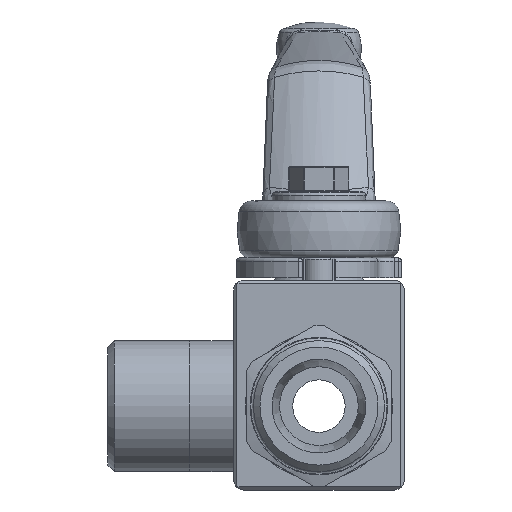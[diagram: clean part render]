
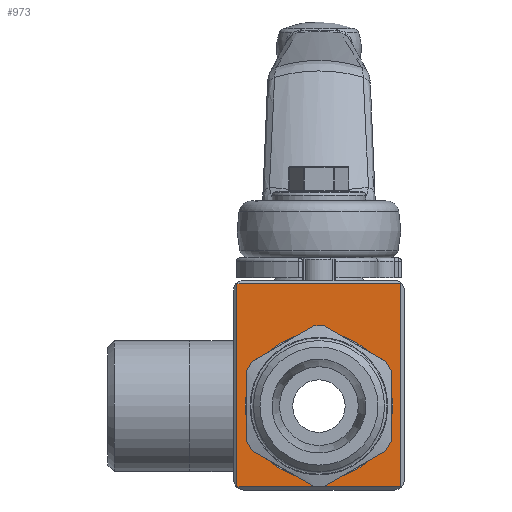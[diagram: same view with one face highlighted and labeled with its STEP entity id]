
A CAD part, front view. The second image highlights one B-rep face of the part: STEP entity #973.
In plain terms, the highlighted planar face has unit normal (0, -1, 0).
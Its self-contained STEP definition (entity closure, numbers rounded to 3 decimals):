
#973 = ADVANCED_FACE( '', ( #2069, #2070 ), #2071, .F. );
#2069 = FACE_BOUND( '', #3660, .T. );
#2070 = FACE_OUTER_BOUND( '', #3661, .T. );
#2071 = PLANE( '', #3662 );
#3660 = EDGE_LOOP( '', ( #6760 ) );
#3661 = EDGE_LOOP( '', ( #6761, #6762, #6763, #6764 ) );
#3662 = AXIS2_PLACEMENT_3D( '', #6765, #6766, #6767 );
#6760 = ORIENTED_EDGE( '', *, *, #8554, .T. );
#6761 = ORIENTED_EDGE( '', *, *, #8995, .T. );
#6762 = ORIENTED_EDGE( '', *, *, #9135, .T. );
#6763 = ORIENTED_EDGE( '', *, *, #9136, .T. );
#6764 = ORIENTED_EDGE( '', *, *, #9137, .T. );
#6765 = CARTESIAN_POINT( '', ( -13., -18.1, 19.2 ) );
#6766 = DIRECTION( '', ( 0., 1., 0. ) );
#6767 = DIRECTION( '', ( 0., 0., 1. ) );
#8554 = EDGE_CURVE( '', #9994, #9994, #9995, .T. );
#8995 = EDGE_CURVE( '', #10672, #10670, #10673, .T. );
#9135 = EDGE_CURVE( '', #10670, #10871, #10872, .T. );
#9136 = EDGE_CURVE( '', #10871, #10873, #10874, .T. );
#9137 = EDGE_CURVE( '', #10873, #10672, #10875, .T. );
#9994 = VERTEX_POINT( '', #12048 );
#9995 = CIRCLE( '', #12049, 11.25 );
#10670 = VERTEX_POINT( '', #13315 );
#10672 = VERTEX_POINT( '', #13318 );
#10673 = LINE( '', #13319, #13320 );
#10871 = VERTEX_POINT( '', #13743 );
#10872 = LINE( '', #13744, #13745 );
#10873 = VERTEX_POINT( '', #13746 );
#10874 = LINE( '', #13747, #13748 );
#10875 = LINE( '', #13749, #13750 );
#12048 = CARTESIAN_POINT( '', ( 0., -18.1, -11.25 ) );
#12049 = AXIS2_PLACEMENT_3D( '', #15148, #15149, #15150 );
#13315 = CARTESIAN_POINT( '', ( -12.5, -18.1, -12.3 ) );
#13318 = CARTESIAN_POINT( '', ( -12.5, -18.1, 18.7 ) );
#13319 = CARTESIAN_POINT( '', ( -12.5, -18.1, 19.2 ) );
#13320 = VECTOR( '', #15745, 1000. );
#13743 = CARTESIAN_POINT( '', ( 12.5, -18.1, -12.3 ) );
#13744 = CARTESIAN_POINT( '', ( -13., -18.1, -12.3 ) );
#13745 = VECTOR( '', #15917, 1000. );
#13746 = CARTESIAN_POINT( '', ( 12.5, -18.1, 18.7 ) );
#13747 = CARTESIAN_POINT( '', ( 12.5, -18.1, 19.2 ) );
#13748 = VECTOR( '', #15918, 1000. );
#13749 = CARTESIAN_POINT( '', ( -13., -18.1, 18.7 ) );
#13750 = VECTOR( '', #15919, 1000. );
#15148 = CARTESIAN_POINT( '', ( 0., -18.1, 0. ) );
#15149 = DIRECTION( '', ( 0., 1., 0. ) );
#15150 = DIRECTION( '', ( 0., 0., -1. ) );
#15745 = DIRECTION( '', ( 0., 0., -1. ) );
#15917 = DIRECTION( '', ( 1., 0., 0. ) );
#15918 = DIRECTION( '', ( 0., 0., 1. ) );
#15919 = DIRECTION( '', ( -1., 0., 0. ) );
